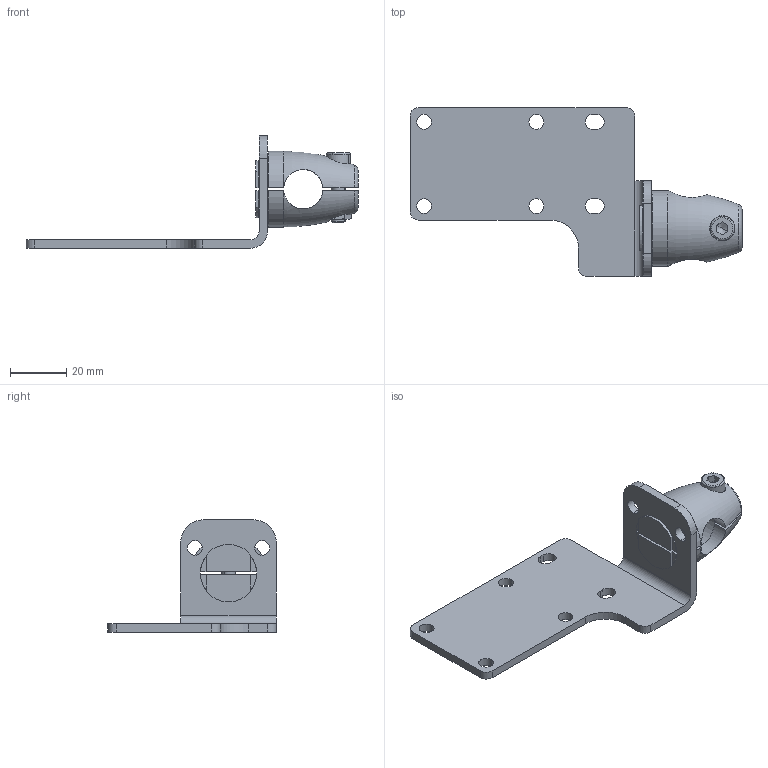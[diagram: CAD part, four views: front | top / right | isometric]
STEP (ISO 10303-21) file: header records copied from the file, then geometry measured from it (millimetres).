
FILE_DESCRIPTION( ( '' ), '1' );
FILE_NAME( '//partserver001.servicenet/client_exchange/iodir/jobs/output/wkb16282229_no2/STEP/e11119_2_03.stp', '2009-05-18T08:56:21', ( '' ), ( '' ), ' ', ' ', ' ' );
FILE_SCHEMA( ( 'CONFIG_CONTROL_DESIGN' ) );
Length unit declared in the file: millimetre
Products named in the file (5): 1; 2; 3; 4; 5
Bounding box: 118.25 x 60 x 40 mm (x, y, z)
Volume: 24024 mm3; surface area: 17006.3 mm2
Topology: 5 solids, 5 shells, 148 faces, 376 edges, 240 vertices
Faces by surface type: plane 65, cylinder 53, cone 24, torus 6
Entity records: 4911 total; most frequent: CARTESIAN_POINT 1097, DIRECTION 763, ORIENTED_EDGE 748, EDGE_CURVE 374, AXIS2_PLACEMENT_3D 290, VERTEX_POINT 240, LINE 183, VECTOR 183
